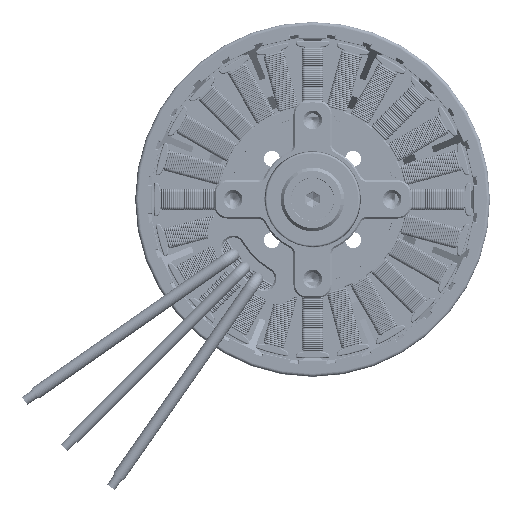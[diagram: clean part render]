
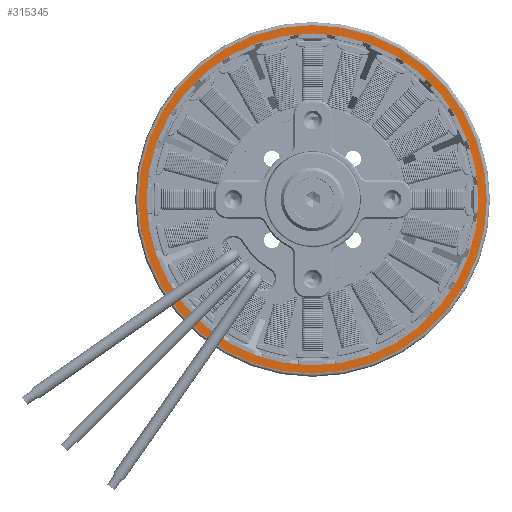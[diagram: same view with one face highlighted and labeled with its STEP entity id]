
A CAD part, front view. The second image highlights one B-rep face of the part: STEP entity #315345.
In plain terms, the highlighted planar face has unit normal (0, -1, 0).
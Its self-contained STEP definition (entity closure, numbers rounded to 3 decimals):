
#46436 = CIRCLE ( 'NONE', #583992, 27.4 ) ;
#89128 = EDGE_CURVE ( 'NONE', #248999, #588207, #135799, .T. ) ;
#125553 = ORIENTED_EDGE ( 'NONE', *, *, #200808, .T. ) ;
#127634 = DIRECTION ( 'NONE',  ( 0., -1., 0. ) ) ;
#129625 = CARTESIAN_POINT ( 'NONE',  ( 0., -11.9, 0. ) ) ;
#135799 = CIRCLE ( 'NONE', #481293, 26.1 ) ;
#139485 = EDGE_LOOP ( 'NONE', ( #245038, #125553 ) ) ;
#149118 = DIRECTION ( 'NONE',  ( 0., -1., 0. ) ) ;
#149864 = AXIS2_PLACEMENT_3D ( 'NONE', #511924, #127634, #270579 ) ;
#159317 = CARTESIAN_POINT ( 'NONE',  ( 26.1, -11.9, 0. ) ) ;
#161197 = CARTESIAN_POINT ( 'NONE',  ( 27.4, -11.9, 0. ) ) ;
#165738 = ORIENTED_EDGE ( 'NONE', *, *, #89128, .T. ) ;
#184676 = FACE_OUTER_BOUND ( 'NONE', #139485, .T. ) ;
#200808 = EDGE_CURVE ( 'NONE', #225631, #398133, #425067, .T. ) ;
#219067 = DIRECTION ( 'NONE',  ( 1., 0., 0. ) ) ;
#225631 = VERTEX_POINT ( 'NONE', #161197 ) ;
#231911 = EDGE_LOOP ( 'NONE', ( #165738, #624544 ) ) ;
#245038 = ORIENTED_EDGE ( 'NONE', *, *, #541750, .T. ) ;
#248999 = VERTEX_POINT ( 'NONE', #596493 ) ;
#270579 = DIRECTION ( 'NONE',  ( -1., 0., 0. ) ) ;
#273254 = AXIS2_PLACEMENT_3D ( 'NONE', #371161, #552493, #219067 ) ;
#314084 = CARTESIAN_POINT ( 'NONE',  ( 0., -11.9, 0. ) ) ;
#315345 = ADVANCED_FACE ( 'NONE', ( #575236, #184676 ), #378181, .T. ) ;
#361501 = DIRECTION ( 'NONE',  ( 0., 1., 0. ) ) ;
#371161 = CARTESIAN_POINT ( 'NONE',  ( 0., -11.9, 0. ) ) ;
#378181 = PLANE ( 'NONE',  #149864 ) ;
#398133 = VERTEX_POINT ( 'NONE', #615388 ) ;
#425067 = CIRCLE ( 'NONE', #273254, 27.4 ) ;
#441110 = DIRECTION ( 'NONE',  ( -1., 0., 0. ) ) ;
#452355 = AXIS2_PLACEMENT_3D ( 'NONE', #129625, #361501, #459960 ) ;
#459960 = DIRECTION ( 'NONE',  ( 1., 0., 0. ) ) ;
#460142 = DIRECTION ( 'NONE',  ( 0., 1., 0. ) ) ;
#481293 = AXIS2_PLACEMENT_3D ( 'NONE', #314084, #460142, #517239 ) ;
#482830 = CIRCLE ( 'NONE', #452355, 26.1 ) ;
#511924 = CARTESIAN_POINT ( 'NONE',  ( 0., -11.9, 0. ) ) ;
#517239 = DIRECTION ( 'NONE',  ( -1., 0., 0. ) ) ;
#533403 = CARTESIAN_POINT ( 'NONE',  ( 0., -11.9, 0. ) ) ;
#541750 = EDGE_CURVE ( 'NONE', #398133, #225631, #46436, .T. ) ;
#551017 = EDGE_CURVE ( 'NONE', #588207, #248999, #482830, .T. ) ;
#552493 = DIRECTION ( 'NONE',  ( 0., -1., 0. ) ) ;
#575236 = FACE_BOUND ( 'NONE', #231911, .T. ) ;
#583992 = AXIS2_PLACEMENT_3D ( 'NONE', #533403, #149118, #441110 ) ;
#588207 = VERTEX_POINT ( 'NONE', #159317 ) ;
#596493 = CARTESIAN_POINT ( 'NONE',  ( -26.1, -11.9, 0. ) ) ;
#615388 = CARTESIAN_POINT ( 'NONE',  ( -27.4, -11.9, 0. ) ) ;
#624544 = ORIENTED_EDGE ( 'NONE', *, *, #551017, .T. ) ;
